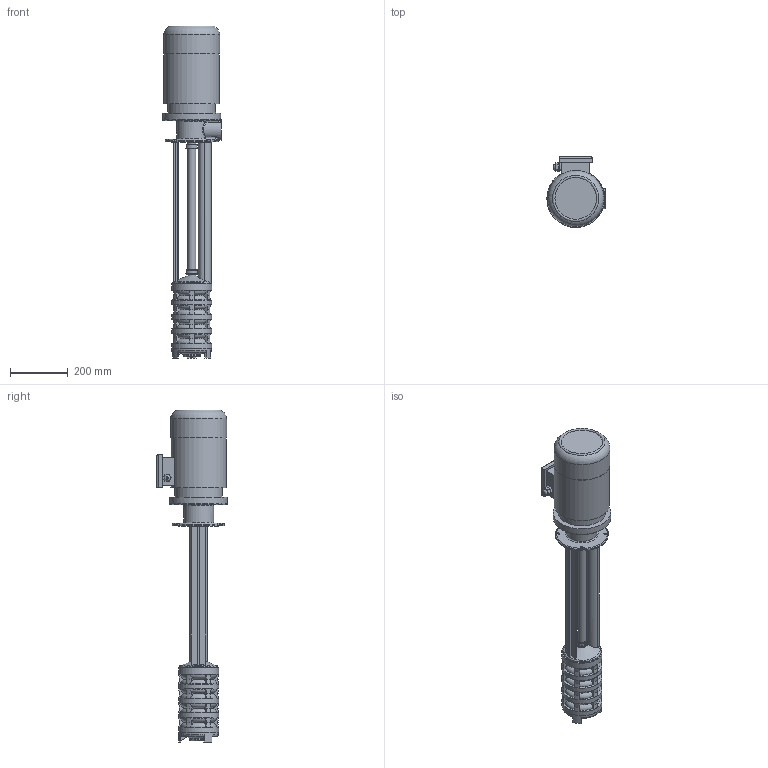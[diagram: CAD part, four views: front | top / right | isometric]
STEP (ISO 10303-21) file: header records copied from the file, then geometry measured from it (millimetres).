
FILE_DESCRIPTION(/* description */ ('Unknown'),/* implementation_level */ '2;1');
FILE_NAME(/* name */ 'gp5-750',/* time_stamp */ '2025-06-12T11:07:41+03:00',/* author */ ('Unknown'),/* organization */ ('Unknown'),/* preprocessor_version */ 'ST-DEVELOPER v16.7',/* originating_system */ 'DEX',/* authorisation */ $);
FILE_SCHEMA (('AUTOMOTIVE_DESIGN {1 0 10303 214 3 1 1}'));
Length unit declared in the file: millimetre
Products named in the file (1): gp5-750
Bounding box: 202 x 245.5 x 1150.49 mm (x, y, z)
Volume: 15800509 mm3; surface area: 738303.2 mm2
Topology: 1 solids, 1 shells, 474 faces, 1260 edges, 819 vertices
Faces by surface type: plane 158, cylinder 94, bspline 84, cone 73, torus 65
Full cylindrical faces by diameter (mm): 17 x1, 21.5 x1, 29 x3, 33 x2, 35 x2, 39 x2, 40.5 x2, 45 x1, 47 x1, 60 x1, 137 x1, 139 x5, 140 x1, 165 x1, 192.353 x1, 194 x1, 200 x1
Entity records: 17323 total; most frequent: CARTESIAN_POINT 6092, ORIENTED_EDGE 2374, DIRECTION 2213, EDGE_CURVE 1187, AXIS2_PLACEMENT_3D 842, VERTEX_POINT 803, EDGE_LOOP 566, FACE_BOUND 566
